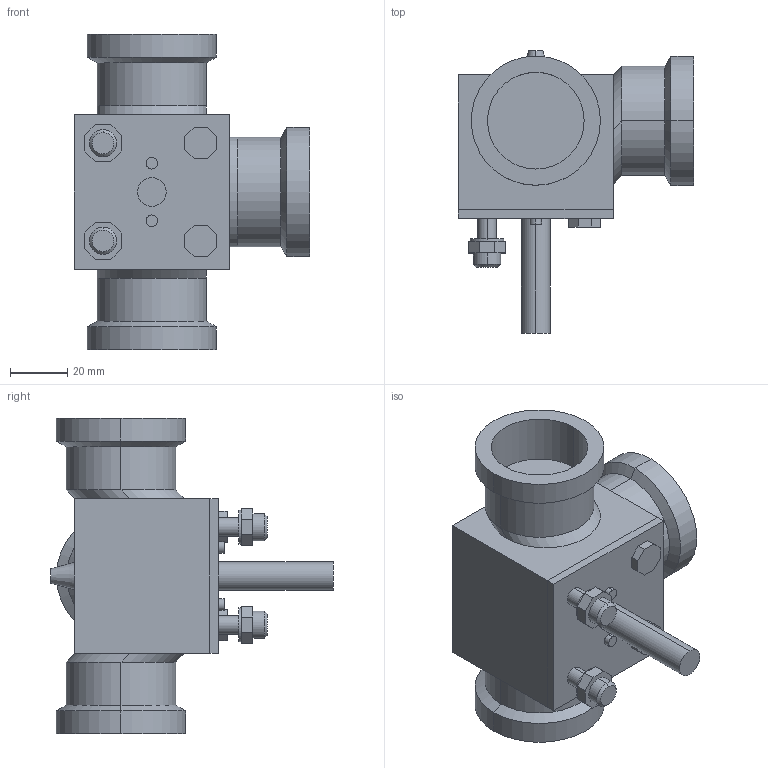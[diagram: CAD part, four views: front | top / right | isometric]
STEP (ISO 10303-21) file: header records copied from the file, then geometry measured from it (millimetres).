
FILE_DESCRIPTION((''),'2;1');
FILE_NAME('KL000031.dwg.stp','2006-10-04T11:30:34',(''),(''),'Mechanical Desktop 2006','Mechanical Desktop 2006',', , ');
FILE_SCHEMA(('AUTOMOTIVE_DESIGN { 1 2 10303 214 0 1 1 1 }'));
Length unit declared in the file: millimetre
Products named in the file (1): Product
Bounding box: 82 x 98.5 x 110 mm (x, y, z)
Volume: 214848 mm3; surface area: 52509.8 mm2
Topology: 19 solids, 19 shells, 135 faces, 260 edges, 166 vertices
Faces by surface type: plane 53, bspline 50, cylinder 22, cone 10
Entity records: 3738 total; most frequent: CARTESIAN_POINT 1020, ORIENTED_EDGE 520, DIRECTION 518, EDGE_CURVE 260, VECTOR 174, LINE 174, AXIS2_PLACEMENT_3D 172, VERTEX_POINT 166
